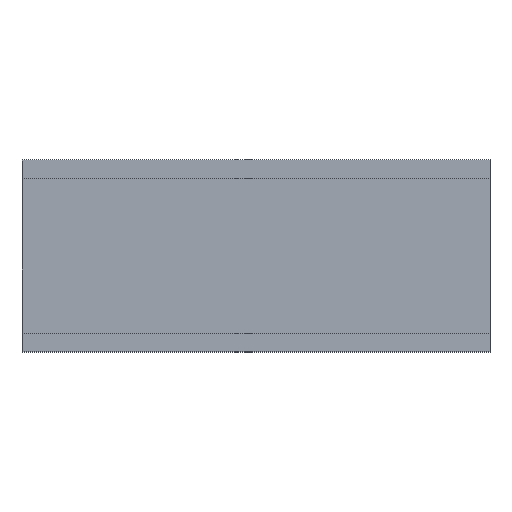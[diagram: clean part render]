
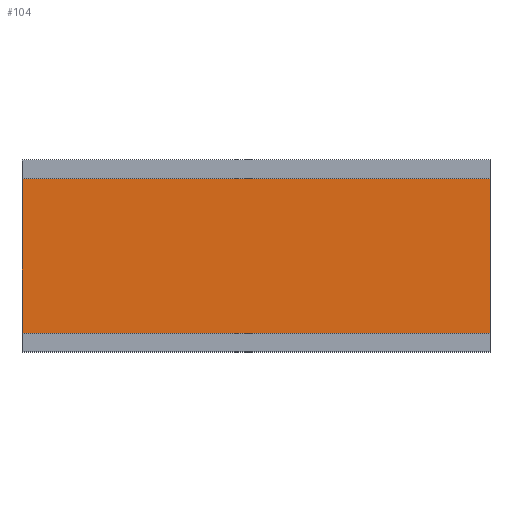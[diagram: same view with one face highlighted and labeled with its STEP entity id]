
A CAD part, top view. The second image highlights one B-rep face of the part: STEP entity #104.
In plain terms, the highlighted planar face has unit normal (0, 0, 1).
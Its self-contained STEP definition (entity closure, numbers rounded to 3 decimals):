
#1 = LINE ( 'NONE', #2, #3 ) ;
#2 = CARTESIAN_POINT ( 'NONE',  ( 100., 16.5, 12.225 ) ) ;
#3 = VECTOR ( 'NONE', #4, 1000. ) ;
#4 = DIRECTION ( 'NONE',  ( -1., 0., 0. ) ) ;
#5 = CARTESIAN_POINT ( 'NONE',  ( 0., -16.5, 12.225 ) ) ;
#7 = CARTESIAN_POINT ( 'NONE',  ( 100., -16.5, 12.225 ) ) ;
#8 = CARTESIAN_POINT ( 'NONE',  ( 100., -16.5, 12.225 ) ) ;
#13 = FACE_OUTER_BOUND ( 'NONE', #120, .T. ) ;
#15 = AXIS2_PLACEMENT_3D ( 'NONE', #8, #20, #16 ) ;
#16 = DIRECTION ( 'NONE',  ( -1., 0., 0. ) ) ;
#20 = DIRECTION ( 'NONE',  ( 0., 0., -1. ) ) ;
#22 = PLANE ( 'NONE',  #15 ) ;
#23 = CARTESIAN_POINT ( 'NONE',  ( 100., -16.5, 12.225 ) ) ;
#24 = DIRECTION ( 'NONE',  ( 0., -1., 0. ) ) ;
#25 = CARTESIAN_POINT ( 'NONE',  ( 100., 16.5, 12.225 ) ) ;
#27 = CARTESIAN_POINT ( 'NONE',  ( 0., -16.5, 12.225 ) ) ;
#28 = LINE ( 'NONE', #23, #32 ) ;
#29 = VECTOR ( 'NONE', #24, 1000. ) ;
#31 = DIRECTION ( 'NONE',  ( -1., 0., 0. ) ) ;
#32 = VECTOR ( 'NONE', #31, 1000. ) ;
#34 = LINE ( 'NONE', #27, #29 ) ;
#91 = LINE ( 'NONE', #98, #101 ) ;
#92 = DIRECTION ( 'NONE',  ( 0., -1., 0. ) ) ;
#98 = CARTESIAN_POINT ( 'NONE',  ( 100., -16.5, 12.225 ) ) ;
#101 = VECTOR ( 'NONE', #92, 1000. ) ;
#103 = ORIENTED_EDGE ( 'NONE', *, *, #112, .F. ) ;
#104 = ADVANCED_FACE ( 'NONE', ( #13 ), #22, .F. ) ;
#109 = EDGE_CURVE ( 'NONE', #110, #295, #1, .T. ) ;
#110 = VERTEX_POINT ( 'NONE', #25 ) ;
#111 = EDGE_CURVE ( 'NONE', #295, #116, #34, .T. ) ;
#112 = EDGE_CURVE ( 'NONE', #115, #116, #28, .T. ) ;
#114 = ORIENTED_EDGE ( 'NONE', *, *, #109, .T. ) ;
#115 = VERTEX_POINT ( 'NONE', #7 ) ;
#116 = VERTEX_POINT ( 'NONE', #5 ) ;
#117 = ORIENTED_EDGE ( 'NONE', *, *, #122, .F. ) ;
#118 = ORIENTED_EDGE ( 'NONE', *, *, #111, .T. ) ;
#120 = EDGE_LOOP ( 'NONE', ( #118, #103, #117, #114 ) ) ;
#122 = EDGE_CURVE ( 'NONE', #110, #115, #91, .T. ) ;
#295 = VERTEX_POINT ( 'NONE', #570 ) ;
#570 = CARTESIAN_POINT ( 'NONE',  ( 0., 16.5, 12.225 ) ) ;
